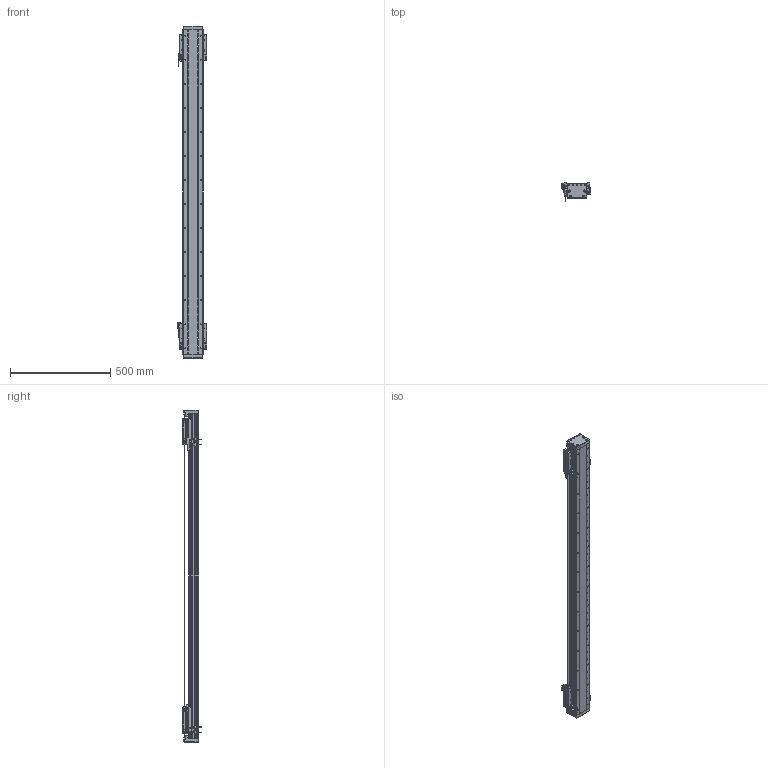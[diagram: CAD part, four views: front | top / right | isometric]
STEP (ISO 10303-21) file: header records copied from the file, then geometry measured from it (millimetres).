
FILE_DESCRIPTION (( 'STEP AP203' ), '1' );
FILE_NAME ('DA-B95-2-B15-T1280-C010-0.2 直线电机.STEP', '2023-05-06T06:30:19', ( '微软用户' ), ( '微软中国' ), 'SwSTEP 2.0', 'SolidWorks 2019', '' );
FILE_SCHEMA (( 'CONFIG_CONTROL_DESIGN' ));
Length unit declared in the file: millimetre
Products named in the file (34): 复件 DKW-KGZ-ZJ-00 中间光电开关支架^DA-A95-B15-T-C010-0.2-N 直线电机; 复件 DA95-MFP-01 密封片^66245-BU95-V 滚珠滑台; DA-A95-GYP-00 光电感应片^DA-A95-B15-T-C010-0.2-N 直线电机; 复件 DKW-HXJ-JY-00 缓冲橡胶^DA-A95-B15-T-C010-0.2-N 直线电机; 葩璃 BKMA01-W060-TRL^DA-A95-B15-T-C010-0.2-N 眻盄萇儂; IU-BU95-L-00 菁釱_L1620; 复件 六角薄螺母 M3^DA-A95-B15-T-C010-0.2-N 直线电机_GB_FASTENER_NUT_STNAB M3-C; IU-BU95-L 菁釱絳寢; 复件 DA95-DB-00  挡板^66245-BU95-V 滚珠滑台; 66245-BU95-V 幗紩賑怢; PM-T45 光电开关^DA-A95-B15-T-C010-0.2-N 直线电机; 复件 66245-BU95-HT-V-01 滑动台板^66245-BU95-V-00 一体化滑动台板; DA95-HXJ-00 缓冲橡胶^DA-A95-B15-T-C010-0.2-N 直线电机; 复件 DA95-HK-GT-00 滑块钢轨^66245-BU95-V-00 一体化滑动台板; 复件 复件 18252-0001-004-00 钢带端盖^DA-A95-B15-T-C010-0.2-N 直线电机; 66245-BU95-V-00 珨极趙賑雄怢啣; 复件 复件 18252-0001-003-00 钢带拉块^DA-A95-B15-T-C010-0.2-N 直线电机; 葩璃 DA95-B15-DP--B-00 菜えB^66245-BU95-V 幗紩賑怢; DA-B95-2-B15-T1280-C010-0.2 眻盄萇儂; B15 XD-U-02L ｴﾅﾕ､ｳﾟ^DA-A95-B15-T-C010-0.2-N ﾖｱﾏﾟｵ扈銈XD-U-02L; 葩璃 PM-Y45^DA-A95-B15-T-C010-0.2-N 眻盄萇儂; LMDK-2-R001-V5-L02-C1-F00，0.2M 读数头^DA-A95-B15-T-C010-0.2-N 直线电机_DMA-010-0.2; 复件 纯铜油杯 6x6mm^66245-BU95-V 滚珠滑台; 复件 DKW-GYP-ZJ-00 中间光电感应片^DA-A95-B15-T-C010-0.2-N 直线电机; 葩璃 DA95-GT-T-00^IU-BU95-L 菁釱絳寢_DA95; 复件 DA95-DK-00 挡块^66245-BU95-V 滚珠滑台; 葩璃 DA95-B15-DP-A-00 菜えA^66245-BU95-V 幗紩賑怢; 复件 复件 18252-0001-002-00 钢带垫块^DA-A95-B15-T-C010-0.2-N 直线电机; 复件 DA95-B15-YB-B-00 压板B^66245-BU95-V 滚珠滑台; 葩璃 BKM015-W060-C1-TP-DA-0.2^DA-A95-B15-T-C010-0.2-N 眻盄萇儂; 复件 DA95-B15 钢带盖板^DA-A95-B15-T-C010-0.2-N 直线电机; 复件 DA95-B15-YB-A-00 压板A^66245-BU95-V 滚珠滑台
Assembly tree (80 placements, depth 4):
  DA-B95-2-B15-T1280-C010-0.2 眻盄萇儂
    IU-BU95-L 菁釱絳寢
      IU-BU95-L-00 菁釱_L1620
      葩璃 DA95-GT-T-00^IU-BU95-L 菁釱絳寢_DA95  x2
    66245-BU95-V 幗紩賑怢
      66245-BU95-V-00 珨极趙賑雄怢啣
        复件 66245-BU95-HT-V-01 滑动台板^66245-BU95-V-00 一体化滑动台板
        复件 DA95-HK-GT-00 滑块钢轨^66245-BU95-V-00 一体化滑动台板  x2
      葩璃 DA95-B15-DP-A-00 菜えA^66245-BU95-V 幗紩賑怢
      复件 DA95-B15-YB-A-00 压板A^66245-BU95-V 滚珠滑台
      复件 DA95-B15-YB-B-00 压板B^66245-BU95-V 滚珠滑台
      复件 DA95-DB-00  挡板^66245-BU95-V 滚珠滑台  x4
      复件 DA95-DK-00 挡块^66245-BU95-V 滚珠滑台  x2
      复件 DA95-MFP-01 密封片^66245-BU95-V 滚珠滑台  x4
      复件 纯铜油杯 6x6mm^66245-BU95-V 滚珠滑台  x2
      葩璃 DA95-B15-DP--B-00 菜えB^66245-BU95-V 幗紩賑怢
    66245-BU95-V 幗紩賑怢
      66245-BU95-V-00 珨极趙賑雄怢啣
        复件 66245-BU95-HT-V-01 滑动台板^66245-BU95-V-00 一体化滑动台板
        复件 DA95-HK-GT-00 滑块钢轨^66245-BU95-V-00 一体化滑动台板  x2
      葩璃 DA95-B15-DP-A-00 菜えA^66245-BU95-V 幗紩賑怢
      复件 DA95-B15-YB-A-00 压板A^66245-BU95-V 滚珠滑台
      复件 DA95-B15-YB-B-00 压板B^66245-BU95-V 滚珠滑台
      复件 DA95-DB-00  挡板^66245-BU95-V 滚珠滑台  x4
      复件 DA95-DK-00 挡块^66245-BU95-V 滚珠滑台  x2
      复件 DA95-MFP-01 密封片^66245-BU95-V 滚珠滑台  x4
      复件 纯铜油杯 6x6mm^66245-BU95-V 滚珠滑台  x2
      葩璃 DA95-B15-DP--B-00 菜えB^66245-BU95-V 幗紩賑怢
    DA-A95-GYP-00 光电感应片^DA-A95-B15-T-C010-0.2-N 直线电机  x2
    LMDK-2-R001-V5-L02-C1-F00，0.2M 读数头^DA-A95-B15-T-C010-0.2-N 直线电机_DMA-010-0.2  x2
    复件 DKW-KGZ-ZJ-00 中间光电开关支架^DA-A95-B15-T-C010-0.2-N 直线电机
    葩璃 PM-Y45^DA-A95-B15-T-C010-0.2-N 眻盄萇儂
    复件 DKW-GYP-ZJ-00 中间光电感应片^DA-A95-B15-T-C010-0.2-N 直线电机
    葩璃 BKM015-W060-C1-TP-DA-0.2^DA-A95-B15-T-C010-0.2-N 眻盄萇儂  x2
    复件 DKW-HXJ-JY-00 缓冲橡胶^DA-A95-B15-T-C010-0.2-N 直线电机  x2
    PM-T45 光电开关^DA-A95-B15-T-C010-0.2-N 直线电机  x4
    B15 XD-U-02L ｴﾅﾕ､ｳﾟ^DA-A95-B15-T-C010-0.2-N ﾖｱﾏﾟｵ扈銈XD-U-02L
    复件 复件 18252-0001-003-00 钢带拉块^DA-A95-B15-T-C010-0.2-N 直线电机  x2
    复件 复件 18252-0001-002-00 钢带垫块^DA-A95-B15-T-C010-0.2-N 直线电机  x2
    复件 复件 18252-0001-004-00 钢带端盖^DA-A95-B15-T-C010-0.2-N 直线电机  x2
    复件 DA95-B15 钢带盖板^DA-A95-B15-T-C010-0.2-N 直线电机
    DA95-HXJ-00 缓冲橡胶^DA-A95-B15-T-C010-0.2-N 直线电机  x4
    葩璃 BKMA01-W060-TRL^DA-A95-B15-T-C010-0.2-N 眻盄萇儂
    复件 六角薄螺母 M3^DA-A95-B15-T-C010-0.2-N 直线电机_GB_FASTENER_NUT_STNAB M3-C  x6
Bounding box: 145.4 x 90.2 x 1656 mm (x, y, z)
Volume: 5824331.2 mm3; surface area: 1890739 mm2
Topology: 75 solids, 93 shells, 3820 faces, 10420 edges, 6559 vertices
Faces by surface type: cylinder 1861, plane 1427, cone 464, torus 64, sphere 4
Entity records: 82838 total; most frequent: CARTESIAN_POINT 20064, ORIENTED_EDGE 12198, DIRECTION 12162, EDGE_CURVE 6099, AXIS2_PLACEMENT_3D 4585, VERTEX_POINT 3961, LINE 2992, VECTOR 2992
